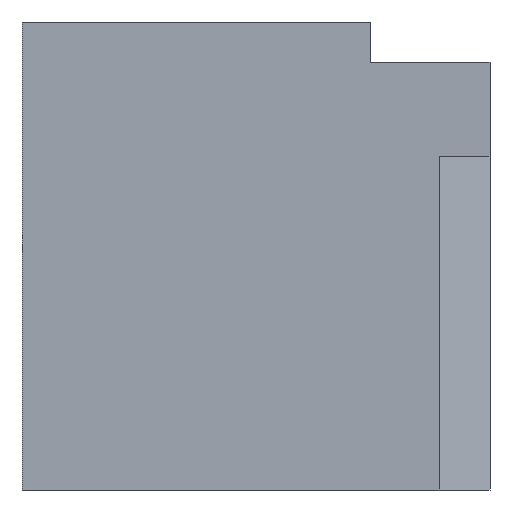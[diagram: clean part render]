
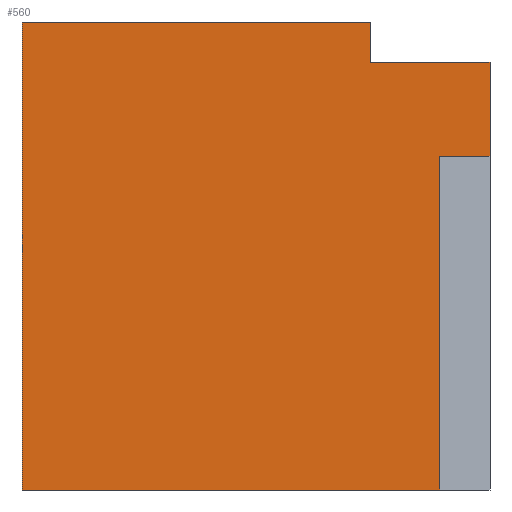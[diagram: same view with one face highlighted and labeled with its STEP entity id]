
A CAD part, left-side view. The second image highlights one B-rep face of the part: STEP entity #560.
In plain terms, the highlighted planar face has unit normal (-1, 0, 0).
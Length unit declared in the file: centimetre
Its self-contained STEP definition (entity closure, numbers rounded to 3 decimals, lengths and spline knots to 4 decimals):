
#2 = FACE_OUTER_BOUND ( 'NONE', #5, .T. ) ;
#5 = EDGE_LOOP ( 'NONE', ( #78, #570, #553, #558, #164, #305, #852, #596 ) ) ;
#21 = EDGE_CURVE ( 'NONE', #24, #435, #777, .T. ) ;
#24 = VERTEX_POINT ( 'NONE', #308 ) ;
#27 = EDGE_CURVE ( 'NONE', #190, #168, #191, .T. ) ;
#52 = VECTOR ( 'NONE', #412, 100. ) ;
#78 = ORIENTED_EDGE ( 'NONE', *, *, #27, .T. ) ;
#84 = CARTESIAN_POINT ( 'NONE',  ( 0., 107.6976, 712.6873 ) ) ;
#87 = DIRECTION ( 'NONE',  ( 0., 0., -1. ) ) ;
#102 = CARTESIAN_POINT ( 'NONE',  ( 0., 1000., 1000. ) ) ;
#114 = CARTESIAN_POINT ( 'NONE',  ( 0., 254.2826, 913.8004 ) ) ;
#129 = LINE ( 'NONE', #752, #623 ) ;
#149 = DIRECTION ( 'NONE',  ( 1., 0., 0. ) ) ;
#164 = ORIENTED_EDGE ( 'NONE', *, *, #194, .F. ) ;
#168 = VERTEX_POINT ( 'NONE', #743 ) ;
#183 = CARTESIAN_POINT ( 'NONE',  ( 0., 1000., 0. ) ) ;
#190 = VERTEX_POINT ( 'NONE', #677 ) ;
#191 = LINE ( 'NONE', #183, #812 ) ;
#194 = EDGE_CURVE ( 'NONE', #697, #423, #129, .T. ) ;
#207 = VECTOR ( 'NONE', #87, 100. ) ;
#214 = LINE ( 'NONE', #341, #578 ) ;
#227 = CARTESIAN_POINT ( 'NONE',  ( 0., 1000., 1000. ) ) ;
#290 = EDGE_CURVE ( 'NONE', #435, #697, #481, .T. ) ;
#300 = CARTESIAN_POINT ( 'NONE',  ( 0., 0., 1000. ) ) ;
#305 = ORIENTED_EDGE ( 'NONE', *, *, #290, .F. ) ;
#307 = VECTOR ( 'NONE', #618, 100. ) ;
#308 = CARTESIAN_POINT ( 'NONE',  ( 0., 1000., 1000. ) ) ;
#325 = CARTESIAN_POINT ( 'NONE',  ( 0., 107.6976, 712.6873 ) ) ;
#341 = CARTESIAN_POINT ( 'NONE',  ( 0., 0., 712.6873 ) ) ;
#372 = VECTOR ( 'NONE', #783, 100. ) ;
#401 = EDGE_CURVE ( 'NONE', #423, #568, #707, .T. ) ;
#412 = DIRECTION ( 'NONE',  ( 0., 0., -1. ) ) ;
#423 = VERTEX_POINT ( 'NONE', #837 ) ;
#433 = VECTOR ( 'NONE', #457, 100. ) ;
#435 = VERTEX_POINT ( 'NONE', #492 ) ;
#457 = DIRECTION ( 'NONE',  ( 0., -1., 0. ) ) ;
#474 = EDGE_CURVE ( 'NONE', #733, #168, #830, .T. ) ;
#481 = LINE ( 'NONE', #757, #307 ) ;
#492 = CARTESIAN_POINT ( 'NONE',  ( 0., 254.2826, 1000. ) ) ;
#502 = PLANE ( 'NONE',  #524 ) ;
#524 = AXIS2_PLACEMENT_3D ( 'NONE', #227, #149, #835 ) ;
#553 = ORIENTED_EDGE ( 'NONE', *, *, #887, .F. ) ;
#555 = DIRECTION ( 'NONE',  ( 0., -1., 0. ) ) ;
#558 = ORIENTED_EDGE ( 'NONE', *, *, #401, .F. ) ;
#560 = ADVANCED_FACE ( 'NONE', ( #2 ), #502, .F. ) ;
#568 = VERTEX_POINT ( 'NONE', #703 ) ;
#570 = ORIENTED_EDGE ( 'NONE', *, *, #474, .F. ) ;
#578 = VECTOR ( 'NONE', #820, 100. ) ;
#596 = ORIENTED_EDGE ( 'NONE', *, *, #670, .T. ) ;
#618 = DIRECTION ( 'NONE',  ( 0., 0., -1. ) ) ;
#623 = VECTOR ( 'NONE', #555, 100. ) ;
#655 = CARTESIAN_POINT ( 'NONE',  ( 0., 1000., 1000. ) ) ;
#670 = EDGE_CURVE ( 'NONE', #24, #190, #867, .T. ) ;
#677 = CARTESIAN_POINT ( 'NONE',  ( 0., 1000., 0. ) ) ;
#697 = VERTEX_POINT ( 'NONE', #114 ) ;
#703 = CARTESIAN_POINT ( 'NONE',  ( 0., 0., 712.6873 ) ) ;
#707 = LINE ( 'NONE', #300, #207 ) ;
#733 = VERTEX_POINT ( 'NONE', #325 ) ;
#734 = DIRECTION ( 'NONE',  ( 0., -1., 0. ) ) ;
#743 = CARTESIAN_POINT ( 'NONE',  ( 0., 107.6976, 0. ) ) ;
#752 = CARTESIAN_POINT ( 'NONE',  ( 0., 0., 913.8004 ) ) ;
#757 = CARTESIAN_POINT ( 'NONE',  ( 0., 254.2826, 913.8004 ) ) ;
#777 = LINE ( 'NONE', #655, #433 ) ;
#783 = DIRECTION ( 'NONE',  ( 0., 0., -1. ) ) ;
#812 = VECTOR ( 'NONE', #734, 100. ) ;
#820 = DIRECTION ( 'NONE',  ( 0., 1., 0. ) ) ;
#830 = LINE ( 'NONE', #84, #52 ) ;
#835 = DIRECTION ( 'NONE',  ( 0., 0., -1. ) ) ;
#837 = CARTESIAN_POINT ( 'NONE',  ( 0., 0., 913.8004 ) ) ;
#852 = ORIENTED_EDGE ( 'NONE', *, *, #21, .F. ) ;
#867 = LINE ( 'NONE', #102, #372 ) ;
#887 = EDGE_CURVE ( 'NONE', #568, #733, #214, .T. ) ;
